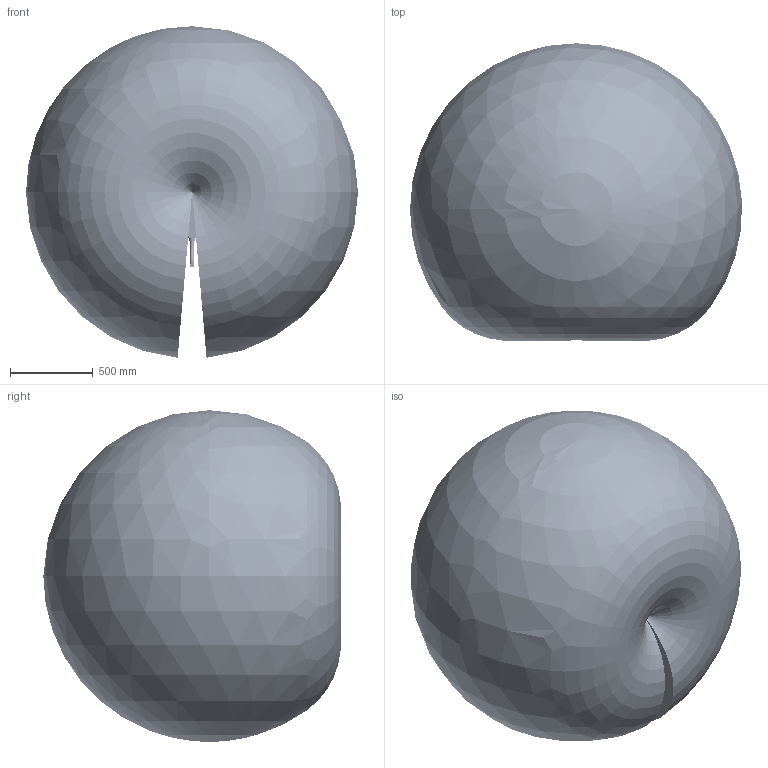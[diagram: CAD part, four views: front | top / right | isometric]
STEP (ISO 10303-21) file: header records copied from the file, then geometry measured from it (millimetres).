
FILE_DESCRIPTION (( 'STEP AP214' ), '1' );
FILE_NAME ('Mantis1000-A7（铸）可动模型.STEP', '2024-04-24T08:30:18', ( '' ), ( '' ), 'SwSTEP 2.0', 'SolidWorks 2021', '' );
FILE_SCHEMA (( 'AUTOMOTIVE_DESIGN' ));
Length unit declared in the file: millimetre
Products named in the file (9): Mantis1000-A7（铸）可动模型; 复件 J3^Mantis1000-A7（铸）可动模型; 复件 J1^Mantis1000-A7（铸）可动模型; 复件 基座^Mantis1000-A7（铸）可动模型; 复件 J5^Mantis1000-A7（铸）可动模型; 复件 J2^Mantis1000-A7（铸）可动模型; 复件 J6^Mantis1000-A7（铸）可动模型; 复件 J4^Mantis1000-A7（铸）可动模型; 复件 工作范围-Mantis1000^Mantis1000-A7（铸）可动模型
Assembly tree (8 placements, depth 2):
  Mantis1000-A7（铸）可动模型
    复件 基座^Mantis1000-A7（铸）可动模型
    复件 J1^Mantis1000-A7（铸）可动模型
    复件 J2^Mantis1000-A7（铸）可动模型
    复件 J3^Mantis1000-A7（铸）可动模型
    复件 J4^Mantis1000-A7（铸）可动模型
    复件 J5^Mantis1000-A7（铸）可动模型
    复件 J6^Mantis1000-A7（铸）可动模型
    复件 工作范围-Mantis1000^Mantis1000-A7（铸）可动模型
Bounding box: 2010.83 x 1800.64 x 2008.15 mm (x, y, z)
Volume: 3957079984.3 mm3; surface area: 19806608.3 mm2
Topology: 722 solids, 722 shells, 21437 faces, 52746 edges, 31611 vertices
Faces by surface type: cylinder 6794, plane 5849, cone 3051, torus 2631, bspline 1570, sphere 1542
Entity records: 953920 total; most frequent: CARTESIAN_POINT 220145, DIRECTION 107776, ORIENTED_EDGE 98618, EDGE_CURVE 49309, AXIS2_PLACEMENT_3D 44994, VERTEX_POINT 30563, CIRCLE 25116, EDGE_LOOP 24902
